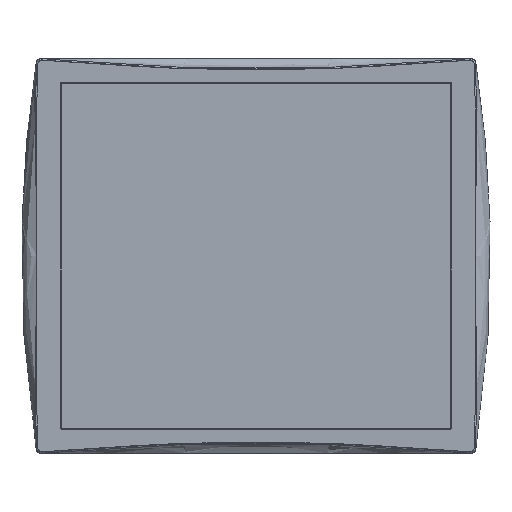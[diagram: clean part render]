
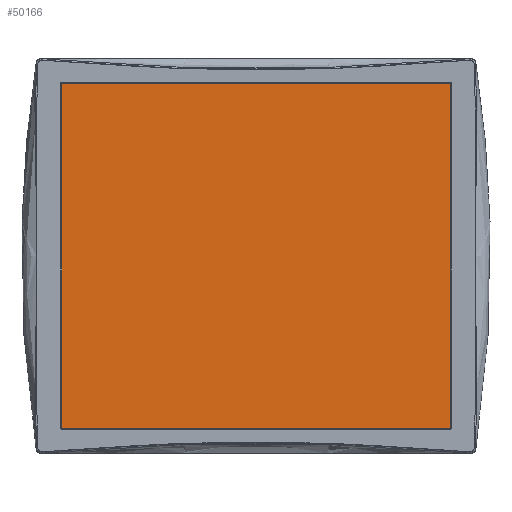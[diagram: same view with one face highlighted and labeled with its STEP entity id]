
A CAD part, top view. The second image highlights one B-rep face of the part: STEP entity #50166.
In plain terms, the highlighted planar face has unit normal (0, 0, 1).
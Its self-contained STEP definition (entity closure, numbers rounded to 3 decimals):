
#99 = EDGE_LOOP ( 'NONE', ( #36285, #36286, #36288, #36283, #36289, #36291, #36292, #36294 ) ) ;
#4896 = PLANE ( 'NONE',  #97931 ) ;
#4897 = CARTESIAN_POINT ( 'NONE',  ( -76.1, 117.1, -0.6 ) ) ;
#4898 = DIRECTION ( 'NONE',  ( 0., 0., 1. ) ) ;
#4899 = DIRECTION ( 'NONE',  ( 1., 0., 0. ) ) ;
#33874 = EDGE_CURVE ( 'NONE', #77253, #76862, #76386, .T. ) ;
#33877 = EDGE_CURVE ( 'NONE', #76862, #76865, #54772, .T. ) ;
#33886 = EDGE_CURVE ( 'NONE', #76865, #76655, #76399, .T. ) ;
#33887 = EDGE_CURVE ( 'NONE', #76655, #76836, #54806, .T. ) ;
#33892 = EDGE_CURVE ( 'NONE', #76836, #76838, #76406, .T. ) ;
#33894 = EDGE_CURVE ( 'NONE', #76838, #76971, #54828, .T. ) ;
#34150 = EDGE_CURVE ( 'NONE', #76971, #77249, #76654, .T. ) ;
#34170 = EDGE_CURVE ( 'NONE', #77249, #77253, #67203, .T. ) ;
#36283 = ORIENTED_EDGE ( 'NONE', *, *, #33886, .T. ) ;
#36285 = ORIENTED_EDGE ( 'NONE', *, *, #34170, .T. ) ;
#36286 = ORIENTED_EDGE ( 'NONE', *, *, #33874, .T. ) ;
#36288 = ORIENTED_EDGE ( 'NONE', *, *, #33877, .T. ) ;
#36289 = ORIENTED_EDGE ( 'NONE', *, *, #33887, .T. ) ;
#36291 = ORIENTED_EDGE ( 'NONE', *, *, #33892, .T. ) ;
#36292 = ORIENTED_EDGE ( 'NONE', *, *, #33894, .T. ) ;
#36294 = ORIENTED_EDGE ( 'NONE', *, *, #34150, .T. ) ;
#50166 = ADVANCED_FACE ( 'NONE', ( #99242 ), #4896, .T. ) ;
#54772 = CIRCLE ( 'NONE', #54785, 0.2 ) ;
#54779 = VECTOR ( 'NONE', #84316, 1000. ) ;
#54785 = AXIS2_PLACEMENT_3D ( 'NONE', #84330, #84331, #84332 ) ;
#54806 = CIRCLE ( 'NONE', #54811, 0.2 ) ;
#54809 = VECTOR ( 'NONE', #84368, 1000. ) ;
#54811 = AXIS2_PLACEMENT_3D ( 'NONE', #84369, #84370, #84371 ) ;
#54827 = VECTOR ( 'NONE', #84382, 1000. ) ;
#54828 = CIRCLE ( 'NONE', #54832, 0.2 ) ;
#54832 = AXIS2_PLACEMENT_3D ( 'NONE', #84385, #84386, #84387 ) ;
#67184 = VECTOR ( 'NONE', #88002, 1000. ) ;
#67203 = CIRCLE ( 'NONE', #67204, 0.2 ) ;
#67204 = AXIS2_PLACEMENT_3D ( 'NONE', #88151, #88153, #88155 ) ;
#76386 = LINE ( 'NONE', #84315, #54779 ) ;
#76399 = LINE ( 'NONE', #84367, #54809 ) ;
#76406 = LINE ( 'NONE', #84381, #54827 ) ;
#76655 = VERTEX_POINT ( 'NONE', #87014 ) ;
#76654 = LINE ( 'NONE', #88000, #67184 ) ;
#76836 = VERTEX_POINT ( 'NONE', #87081 ) ;
#76838 = VERTEX_POINT ( 'NONE', #87082 ) ;
#76862 = VERTEX_POINT ( 'NONE', #87091 ) ;
#76865 = VERTEX_POINT ( 'NONE', #87092 ) ;
#76971 = VERTEX_POINT ( 'NONE', #87132 ) ;
#77249 = VERTEX_POINT ( 'NONE', #87300 ) ;
#77253 = VERTEX_POINT ( 'NONE', #87304 ) ;
#84315 = CARTESIAN_POINT ( 'NONE',  ( -76.3, 117.1, -0.6 ) ) ;
#84316 = DIRECTION ( 'NONE',  ( 0., -1., 0. ) ) ;
#84330 = CARTESIAN_POINT ( 'NONE',  ( -76.1, -18.1, -0.6 ) ) ;
#84331 = DIRECTION ( 'NONE',  ( 0., 0., 1. ) ) ;
#84332 = DIRECTION ( 'NONE',  ( 1., 0., 0. ) ) ;
#84367 = CARTESIAN_POINT ( 'NONE',  ( -76.1, -18.3, -0.6 ) ) ;
#84368 = DIRECTION ( 'NONE',  ( 1., 0., 0. ) ) ;
#84369 = CARTESIAN_POINT ( 'NONE',  ( 76.1, -18.1, -0.6 ) ) ;
#84370 = DIRECTION ( 'NONE',  ( 0., 0., 1. ) ) ;
#84371 = DIRECTION ( 'NONE',  ( 1., 0., 0. ) ) ;
#84381 = CARTESIAN_POINT ( 'NONE',  ( 76.3, -18.1, -0.6 ) ) ;
#84382 = DIRECTION ( 'NONE',  ( 0., 1., 0. ) ) ;
#84385 = CARTESIAN_POINT ( 'NONE',  ( 76.1, 117.1, -0.6 ) ) ;
#84386 = DIRECTION ( 'NONE',  ( 0., 0., 1. ) ) ;
#84387 = DIRECTION ( 'NONE',  ( 1., 0., 0. ) ) ;
#87014 = CARTESIAN_POINT ( 'NONE',  ( 76.1, -18.3, -0.6 ) ) ;
#87081 = CARTESIAN_POINT ( 'NONE',  ( 76.3, -18.1, -0.6 ) ) ;
#87082 = CARTESIAN_POINT ( 'NONE',  ( 76.3, 117.1, -0.6 ) ) ;
#87091 = CARTESIAN_POINT ( 'NONE',  ( -76.3, -18.1, -0.6 ) ) ;
#87092 = CARTESIAN_POINT ( 'NONE',  ( -76.1, -18.3, -0.6 ) ) ;
#87132 = CARTESIAN_POINT ( 'NONE',  ( 76.1, 117.3, -0.6 ) ) ;
#87300 = CARTESIAN_POINT ( 'NONE',  ( -76.1, 117.3, -0.6 ) ) ;
#87304 = CARTESIAN_POINT ( 'NONE',  ( -76.3, 117.1, -0.6 ) ) ;
#88000 = CARTESIAN_POINT ( 'NONE',  ( 76.1, 117.3, -0.6 ) ) ;
#88002 = DIRECTION ( 'NONE',  ( -1., 0., 0. ) ) ;
#88151 = CARTESIAN_POINT ( 'NONE',  ( -76.1, 117.1, -0.6 ) ) ;
#88153 = DIRECTION ( 'NONE',  ( 0., 0., 1. ) ) ;
#88155 = DIRECTION ( 'NONE',  ( 1., 0., 0. ) ) ;
#97931 = AXIS2_PLACEMENT_3D ( 'NONE', #4897, #4898, #4899 ) ;
#99242 = FACE_OUTER_BOUND ( 'NONE', #99, .T. ) ;
